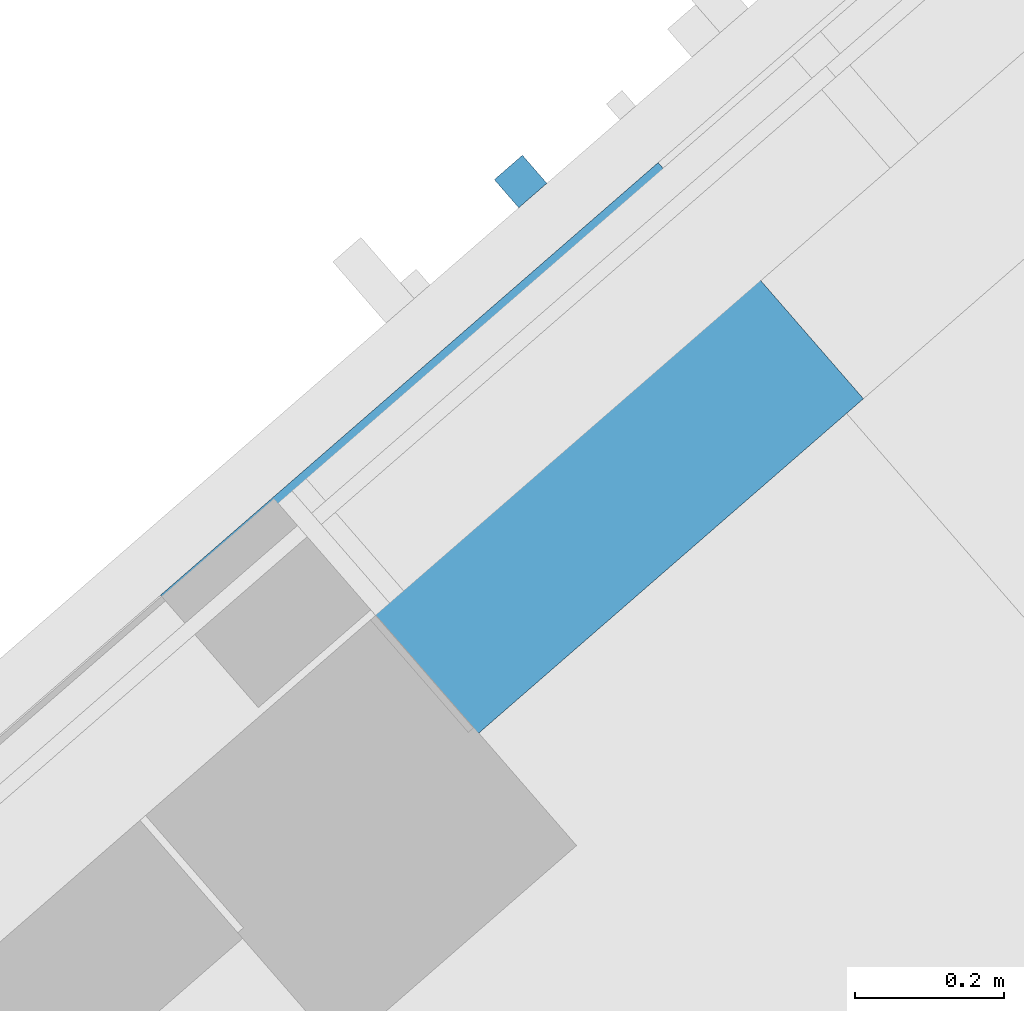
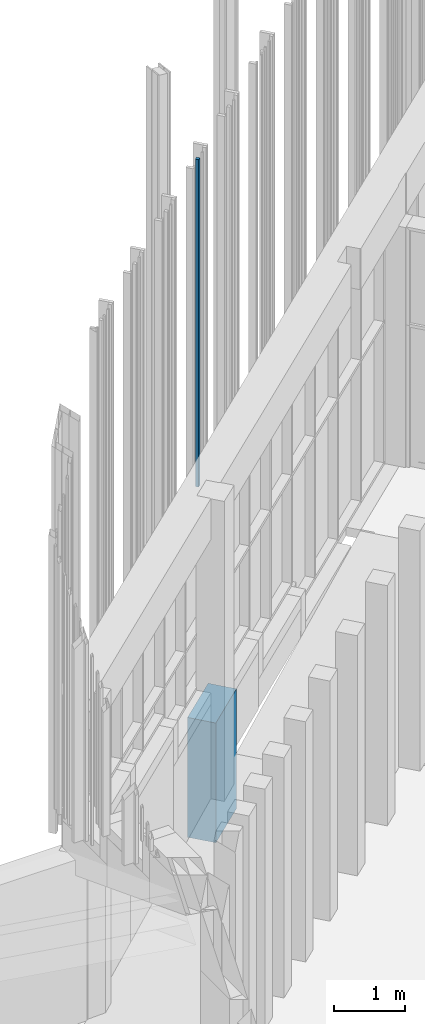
# One storey, part 138 of 390: 2 walls.
"""IFC2X3 building model written with IfcOpenShell, lengths in millimetres."""

from ifc_helpers import new_model, entity, si_unit, converted_unit, derived_unit, money_unit, direction, frame, origin_with_axes, place, context, subcontext, project, spatial, faceted_brep, material, material_list, type_object, element, save


model = new_model("IFC2X3")

# Units and contexts
model_context = context("Model", 3, precision=1e-05, world=origin_with_axes(), true_north=direction((0.0, 1.0)))
body_context = subcontext(model_context, "Body", "Model", "MODEL_VIEW")
ifc_project = project(units=[si_unit("LENGTHUNIT", "METRE", prefix="MILLI"), si_unit("AREAUNIT", "SQUARE_METRE"), si_unit("VOLUMEUNIT", "CUBIC_METRE"), converted_unit("PLANEANGLEUNIT", "DEGREE", entity("IfcPlaneAngleMeasure", 0.0174532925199), si_unit("PLANEANGLEUNIT", "RADIAN"), dimensions=[0, 0, 0, 0, 0, 0, 0]), si_unit("SOLIDANGLEUNIT", "STERADIAN"), money_unit("EUR"), converted_unit("TIMEUNIT", "Year", entity("IfcTimeMeasure", 31556926.0), si_unit("TIMEUNIT", "SECOND"), dimensions=[0, 0, 1, 0, 0, 0, 0]), si_unit("MASSUNIT", "GRAM", prefix="KILO"), si_unit("THERMODYNAMICTEMPERATUREUNIT", "DEGREE_CELSIUS"), si_unit("LUMINOUSINTENSITYUNIT", "LUMEN"), si_unit("ENERGYUNIT", "JOULE", prefix="MEGA"), derived_unit("THERMALCONDUCTANCEUNIT", [(si_unit("POWERUNIT", "WATT"), 1), (si_unit("LENGTHUNIT", "METRE"), -1), (si_unit("THERMODYNAMICTEMPERATUREUNIT", "KELVIN"), -1)]), derived_unit("SPECIFICHEATCAPACITYUNIT", [(si_unit("ENERGYUNIT", "JOULE"), 1), (si_unit("MASSUNIT", "GRAM", prefix="KILO"), -1), (si_unit("THERMODYNAMICTEMPERATUREUNIT", "KELVIN"), -1)]), derived_unit("MASSDENSITYUNIT", [(si_unit("MASSUNIT", "GRAM", prefix="KILO"), 1), (si_unit("VOLUMEUNIT", "CUBIC_METRE"), -1)])], contexts=[model_context])

# Site, building, storey
site_placement = place(None, origin_with_axes())
site = spatial("IfcSite", under=ifc_project, at=site_placement, Name="Site", CompositionType="ELEMENT")
building_placement = place(site_placement, origin_with_axes())
building = spatial("IfcBuilding", under=site, at=building_placement, Name="Building", CompositionType="ELEMENT")
storey_placement = place(building_placement, origin_with_axes())
storey = spatial("IfcBuildingStorey", under=building, at=storey_placement, Name="1 korrus", CompositionType="ELEMENT", Elevation=0.0)

# Walls
ifc_material_1 = material(Name="Krohv - Lubjakivi")
ifc_material_2 = material(Name="Raudbetoon - Konstruktsioon")
ifc_material_3 = material(Name="Soojustus - Plastik Kõva")
ifc_material_4 = material(Name="Membraan - Veekindel")
ifc_material_list = material_list([ifc_material_1, ifc_material_2, ifc_material_3, ifc_material_3, ifc_material_4, ifc_material_4])
wall_type_1 = type_object("IfcWallType", Name="VS-03", PredefinedType="NOTDEFINED")
wall_1_placement = place(storey_placement, frame((127517.908217, 80194.3853949, -1220.0), z_axis=(0.0, 0.0, 1.0), x_axis=(-0.754709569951, -0.656059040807, 0.0)))
element("IfcWall", 1, at=wall_1_placement, inside=storey, type_object=wall_type_1, material=ifc_material_list, Name="VS-03", context=body_context, shape_type="Brep", body=[
    faceted_brep([(885.000001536, -10.0, 2045.0), (885.000001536, 0.0, 2045.0), (0.0, 0.0, 2045.0), (0.0, -10.0, 2045.0), (885.000001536, -10.0, 0.0), (885.000001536, 0.0, 0.0), (0.0, 0.0, 0.0), (0.0, -10.0, 0.0)], [[[0, 1, 2, 3]], [[0, 4, 5, 1]], [[1, 5, 6, 2]], [[3, 2, 6, 7]], [[4, 0, 3, 7]], [[5, 4, 7, 6]]]),
    faceted_brep([(885.000001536, -210.0, 2045.0), (885.000001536, -10.0, 2045.0), (0.0, -10.0, 2045.0), (0.0, -210.0, 2045.0), (885.000001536, -210.0, 0.0), (885.000001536, -10.0, 0.0), (0.0, -10.0, 0.0), (0.0, -210.0, 0.0)], [[[0, 1, 2, 3]], [[0, 4, 5, 1]], [[1, 5, 6, 2]], [[3, 2, 6, 7]], [[4, 0, 3, 7]], [[5, 4, 7, 6]]]),
    faceted_brep([(885.000001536, -360.0, 2045.0), (885.000001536, -210.0, 2045.0), (0.0, -210.0, 2045.0), (0.0, -360.0, 2045.0), (885.000001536, -360.0, 0.0), (885.000001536, -210.0, 0.0), (0.0, -210.0, 0.0), (0.0, -360.0, 0.0)], [[[0, 1, 2, 3]], [[0, 4, 5, 1]], [[1, 5, 6, 2]], [[3, 2, 6, 7]], [[4, 0, 3, 7]], [[5, 4, 7, 6]]]),
    faceted_brep([(885.000001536, -410.0, 2045.0), (885.000001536, -360.0, 2045.0), (0.0, -360.0, 2045.0), (0.0, -410.0, 2045.0), (885.000001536, -410.0, 0.0), (885.000001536, -360.0, 0.0), (0.0, -360.0, 0.0), (0.0, -410.0, 0.0)], [[[0, 1, 2, 3]], [[0, 4, 5, 1]], [[1, 5, 6, 2]], [[3, 2, 6, 7]], [[4, 0, 3, 7]], [[5, 4, 7, 6]]]),
    faceted_brep([(885.000001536, -415.0, 2045.0), (885.000001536, -410.0, 2045.0), (0.0, -410.0, 2045.0), (0.0, -415.0, 2045.0), (885.000001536, -415.0, 0.0), (885.000001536, -410.0, 0.0), (0.0, -410.0, 0.0), (0.0, -415.0, 0.0)], [[[0, 1, 2, 3]], [[0, 4, 5, 1]], [[1, 5, 6, 2]], [[3, 2, 6, 7]], [[4, 0, 3, 7]], [[5, 4, 7, 6]]]),
    faceted_brep([(885.000001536, -420.0, 2045.0), (885.000001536, -415.0, 2045.0), (0.0, -415.0, 2045.0), (0.0, -420.0, 2045.0), (885.000001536, -420.0, 0.0), (885.000001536, -415.0, 0.0), (0.0, -415.0, 0.0), (0.0, -420.0, 0.0)], [[[0, 1, 2, 3]], [[0, 4, 5, 1]], [[1, 5, 6, 2]], [[3, 2, 6, 7]], [[4, 0, 3, 7]], [[5, 4, 7, 6]]]),
])
ifc_material_5 = material(Name="Site specified")
wall_type_2 = type_object("IfcWallType", Name="Puitfassaadi ribistik", PredefinedType="NOTDEFINED")
wall_2_placement = place(storey_placement, frame((127057.710931, 80485.9988349, 4274.4593723), z_axis=(0.0, 0.0, 1.0), x_axis=(0.754709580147, 0.656059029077, 0.0)))
element("IfcWall", 2, at=wall_2_placement, inside=storey, type_object=wall_type_2, material=ifc_material_5, Name="Site specified", context=body_context, shape_type="Brep", body=[
    faceted_brep([(25.0, 25.0, 5590.5406277), (25.0, 25.0, 0.0), (-25.0, 25.0, 0.0), (-25.0, 25.0, 5590.5406277), (25.0, -25.0, 5590.5406277), (25.0, -25.0, 0.0), (-25.0, -25.0, 0.0), (-25.0, -25.0, 5590.5406277)], [[[0, 1, 2, 3]], [[4, 5, 1, 0]], [[2, 1, 5, 6]], [[3, 2, 6, 7]], [[4, 0, 3, 7]], [[7, 6, 5, 4]]]),
])

save(model, "model.ifc")
